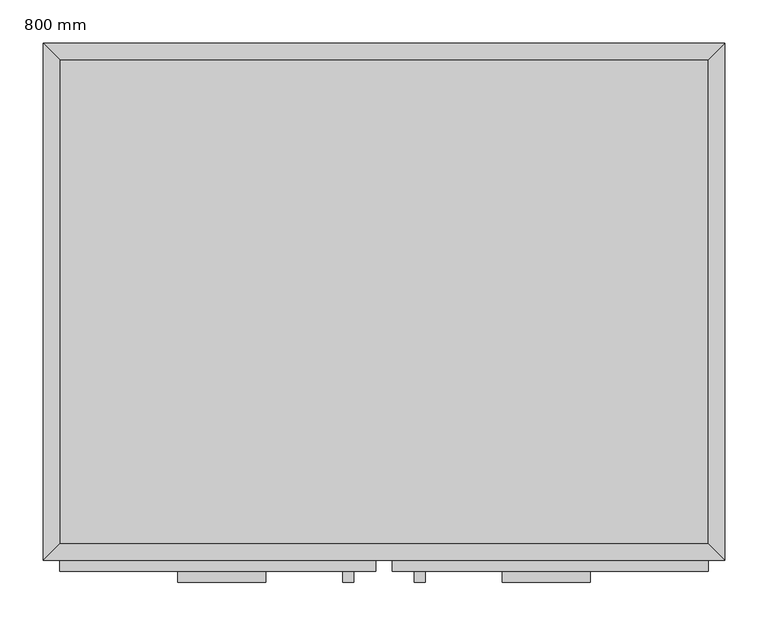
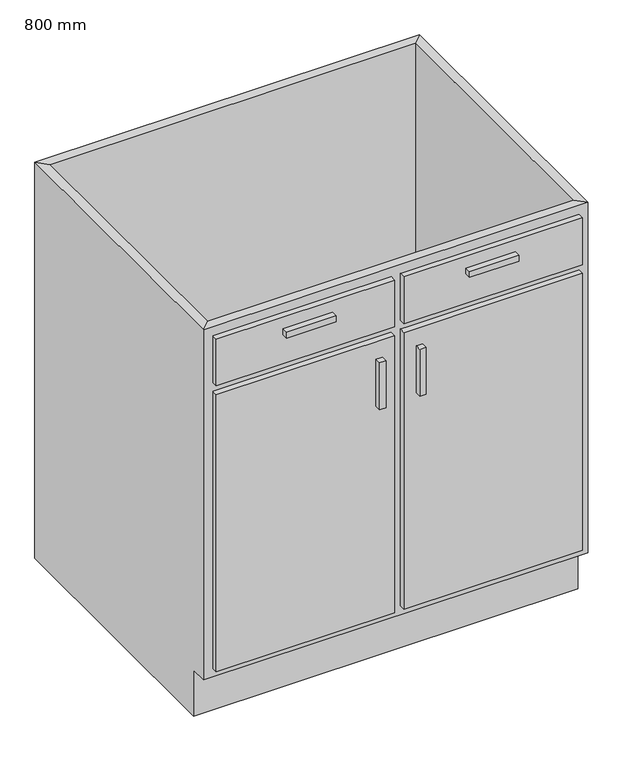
"""IFC4 building model written with IfcOpenShell, lengths in millimetres: furniture geometry, M_Base Cabinet-Double Door & 2 Drawer : 800 mm."""

import ifcopenshell
import ifcopenshell.guid

model = None  # the IFC model being written
_history = None  # IfcOwnerHistory: only IFC2X3 demands one
_inside = {}  # id of a spatial element -> (the spatial element, [elements in it])
_under = {}  # id of a project, library or spatial element -> (it, [spatial elements below it])
_declared = {}  # id of a project -> (the project, [libraries it declares])
_typed = {}  # id of a type object -> (the type object, [elements of that type])
_made_of = {}  # id of a material, layer set ... -> (it, [elements and type objects made of it])


def new_model(schema):
    """Start an empty IFC model of exactly this schema.

    Asked for "IFC4X3", IfcOpenShell would pick the latest addendum, in which some entities
    have other attributes; the version numbers below select the first issue.
    IFC2X3 requires an IfcOwnerHistory on every rooted entity: one is made here for all.
    """
    global model, _history
    if schema == "IFC4X3":
        model = ifcopenshell.file(schema_version=(4, 3, 0, 0))
    else:
        model = ifcopenshell.file(schema=schema)
    _inside.clear()
    _under.clear()
    _declared.clear()
    _typed.clear()
    _made_of.clear()
    _history = None
    if model.schema == "IFC2X3":
        org = make("IfcOrganization", Name="unknown")
        user = make(
            "IfcPersonAndOrganization",
            ThePerson=make("IfcPerson", FamilyName="unknown"),
            TheOrganization=org,
        )
        app = make(
            "IfcApplication",
            ApplicationDeveloper=org,
            Version="unknown",
            ApplicationFullName="unknown",
            ApplicationIdentifier="unknown",
        )
        _history = make(
            "IfcOwnerHistory",
            OwningUser=user,
            OwningApplication=app,
            ChangeAction="ADDED",
            CreationDate=0,
        )
    return model


def make(cls, **values):
    """One entity of the class cls with the attributes given. An attribute that is None is left unset."""
    return model.create_entity(
        cls, **{name: value for name, value in values.items() if value is not None}
    )


def rooted(cls, **values):
    """An entity with a GlobalId (a new one), such as an element, a storey or a relation."""
    return make(cls, GlobalId=ifcopenshell.guid.new(), OwnerHistory=_history, **values)


def si_unit(unit_type, name, prefix=None):
    """IfcSIUnit, for example si_unit("LENGTHUNIT", "METRE", prefix="MILLI")."""
    return make("IfcSIUnit", UnitType=unit_type, Prefix=prefix, Name=name)


def assignment(units):
    """IfcUnitAssignment: the units of a project."""
    return None if units is None else make("IfcUnitAssignment", Units=units)


def point(xyz):
    """IfcCartesianPoint."""
    return None if xyz is None else make("IfcCartesianPoint", Coordinates=xyz)


def direction(xyz):
    """IfcDirection."""
    return None if xyz is None else make("IfcDirection", DirectionRatios=xyz)


def frame(location, z_axis=None, x_axis=None):
    """IfcAxis2Placement3D, a coordinate frame: its origin and axes. An axis left out is left unset."""
    return make(
        "IfcAxis2Placement3D",
        Location=point(location),
        Axis=direction(z_axis),
        RefDirection=direction(x_axis),
    )


def origin():
    """The frame at (0, 0, 0) with its axes left unset."""
    return frame((0.0, 0.0, 0.0))


def place(relative_to, where):
    """IfcLocalPlacement: puts the frame where relative to a parent placement (None: the world)."""
    return make(
        "IfcLocalPlacement", PlacementRelTo=relative_to, RelativePlacement=where
    )


def context(
    kind, dimensions, precision=None, world=None, true_north=None, identifier=None
):
    """IfcGeometricRepresentationContext, for example the 3D "Model" context."""
    return make(
        "IfcGeometricRepresentationContext",
        ContextIdentifier=identifier,
        ContextType=kind,
        CoordinateSpaceDimension=dimensions,
        Precision=precision,
        WorldCoordinateSystem=world,
        TrueNorth=true_north,
    )


def project(units=None, contexts=None):
    """IfcProject with its units and contexts."""
    return rooted(
        "IfcProject",
        Name="project",
        RepresentationContexts=contexts,
        UnitsInContext=assignment(units),
    )


def spatial(cls, under=None, at=None, **own):
    """A site, building, storey or space (cls), placed at a placement, below another one or the project."""
    s = rooted(cls, ObjectPlacement=at, **own)
    if under is not None:
        _under.setdefault(under.id(), (under, []))[1].append(s)
    return s


def polyline(points):
    """IfcPolyline through the points."""
    return make("IfcPolyline", Points=[point(p) for p in points])


def outline(outer, holes=None, kind="AREA"):
    """IfcArbitraryClosedProfileDef: a profile drawn as a closed curve; with holes, ...WithVoids."""
    if holes is None:
        return make("IfcArbitraryClosedProfileDef", ProfileType=kind, OuterCurve=outer)
    return make(
        "IfcArbitraryProfileDefWithVoids",
        ProfileType=kind,
        OuterCurve=outer,
        InnerCurves=holes,
    )


def extrude(swept, where, along, depth):
    """IfcExtrudedAreaSolid: the profile swept, set in the frame where, extruded along a direction by depth."""
    return make(
        "IfcExtrudedAreaSolid",
        SweptArea=swept,
        Position=where,
        ExtrudedDirection=direction(along),
        Depth=depth,
    )


def faces_of(points, faces, orient=None, outer=None):
    """IfcFace entities. A face is a list of loops; a loop is a list of indices into points, from 0.

    orient and outer hold one flag for each loop. By default every Orientation is true, the
    first loop of a face is its IfcFaceOuterBound and the others are IfcFaceBound.
    """
    made = []
    for i, loops in enumerate(faces):
        bounds = []
        for j, loop in enumerate(loops):
            is_outer = j == 0 if outer is None else outer[i][j]
            bounds.append(
                make(
                    "IfcFaceOuterBound" if is_outer else "IfcFaceBound",
                    Bound=make("IfcPolyLoop", Polygon=[points[k] for k in loop]),
                    Orientation=True if orient is None else orient[i][j],
                )
            )
        made.append(make("IfcFace", Bounds=bounds))
    return made


def faceted_brep(points, faces, orient=None, outer=None, voids=None):
    """IfcFacetedBrep: a solid bounded by flat faces; with voids (closed shells), ...WithVoids."""
    shared = [point(p) for p in points]
    hull = make("IfcClosedShell", CfsFaces=faces_of(shared, faces, orient, outer))
    if voids is None:
        return make("IfcFacetedBrep", Outer=hull)
    return make(
        "IfcFacetedBrepWithVoids",
        Outer=hull,
        Voids=[
            make(cls, CfsFaces=faces_of(shared, fs, o, b)) for cls, fs, o, b in voids
        ],
    )


def shape(context_of_items, identifier, shape_type, items):
    """IfcShapeRepresentation: the items that make up one representation, for example the "Body"."""
    return make(
        "IfcShapeRepresentation",
        ContextOfItems=context_of_items,
        RepresentationIdentifier=identifier,
        RepresentationType=shape_type,
        Items=items,
    )


def source(mapping_origin, context_of_items, identifier, shape_type, items):
    """IfcRepresentationMap: a shape defined once, which mapped items show again and again."""
    return make(
        "IfcRepresentationMap",
        MappingOrigin=mapping_origin,
        MappedRepresentation=shape(context_of_items, identifier, shape_type, items),
    )


def transform(
    local_origin,
    x_axis=None,
    y_axis=None,
    z_axis=None,
    scale=None,
    scale2=None,
    scale3=None,
    uniform=True,
):
    """IfcCartesianTransformationOperator3D, or its non-uniform kind. x_axis, y_axis, z_axis: its Axis1, 2, 3."""
    if uniform:
        return make(
            "IfcCartesianTransformationOperator3D",
            Axis1=direction(x_axis),
            Axis2=direction(y_axis),
            LocalOrigin=point(local_origin),
            Scale=scale,
            Axis3=direction(z_axis),
        )
    return make(
        "IfcCartesianTransformationOperator3DnonUniform",
        Axis1=direction(x_axis),
        Axis2=direction(y_axis),
        LocalOrigin=point(local_origin),
        Scale=scale,
        Axis3=direction(z_axis),
        Scale2=scale2,
        Scale3=scale3,
    )


def mapped(mapping_source, mapping_target):
    """IfcMappedItem: shows the shape of a source again, moved by a transform."""
    return make(
        "IfcMappedItem", MappingSource=mapping_source, MappingTarget=mapping_target
    )


def made_of(thing, what):
    """Note that an element or type object is made of a material, layer set ...; save() writes the relation."""
    if what is not None:
        _made_of.setdefault(what.id(), (what, []))[1].append(thing)
    return thing


def element(
    cls,
    number,
    at=None,
    inside=None,
    cuts=None,
    type_object=None,
    material=None,
    context=None,
    identifier="Body",
    shape_type=None,
    held_by="IfcProductDefinitionShape",
    body=None,
    shapes=None,
    **own,
):
    """One element of the class cls, such as IfcWall. Its Tag is "e" and its number.

    at: its placement. inside: the storey or other place that contains it. cuts: it is an
    opening in that element (IfcRelVoidsElement). A single representation is given by context,
    identifier, shape_type and body (its items); several are given by shapes. held_by: the class
    of the entity that holds the representations. save() writes the other relations.
    """
    e = rooted(cls, Tag="e%d" % number, ObjectPlacement=at, **own)
    if body is not None:
        shapes = [shape(context, identifier, shape_type, body)]
    if shapes is not None:
        e.Representation = make(held_by, Representations=shapes)
    if inside is not None:
        _inside.setdefault(inside.id(), (inside, []))[1].append(e)
    if cuts is not None:
        rooted(
            "IfcRelVoidsElement", RelatingBuildingElement=cuts, RelatedOpeningElement=e
        )
    if type_object is not None:
        _typed.setdefault(type_object.id(), (type_object, []))[1].append(e)
    return made_of(e, material)


def aggregate(whole, parts):
    """IfcRelAggregates: a whole, such as a stair, and the parts it consists of."""
    return rooted("IfcRelAggregates", RelatingObject=whole, RelatedObjects=parts)


def save(model, path):
    """Write the relations noted so far, then the file.

    IfcRelAggregates (storeys below a building ...), IfcRelContainedInSpatialStructure (elements
    in a storey), IfcRelDefinesByType, IfcRelAssociatesMaterial and IfcRelDeclares: one each for
    every whole, place, type object, material and project.
    """
    for whole, parts in _under.values():
        aggregate(whole, parts)
    for where, things in _inside.values():
        rooted(
            "IfcRelContainedInSpatialStructure",
            RelatedElements=things,
            RelatingStructure=where,
        )
    for kind, things in _typed.values():
        rooted("IfcRelDefinesByType", RelatedObjects=things, RelatingType=kind)
    for what, things in _made_of.values():
        rooted("IfcRelAssociatesMaterial", RelatedObjects=things, RelatingMaterial=what)
    for by, libraries in _declared.values():
        rooted("IfcRelDeclares", RelatingContext=by, RelatedDefinitions=libraries)
    model.write(path)


def furniture_800_mm_1ff4edde(model_context):
    return source(origin(), model_context, "Body", "SolidModel", [
        faceted_brep([(394.6877049, -580.95, 860.0), (394.6877049, -580.95, 100.0), (-357.2122951, -580.95, 100.0), (-357.2122951, -580.95, 860.0), (-376.2622951, -600.0, 860.0), (413.7377049, -600.0, 860.0), (-376.2622951, -600.0, 100.0), (413.7377049, -600.0, 100.0), (-357.2122951, -565.0, 100.0), (-357.2122951, -19.05, 100.0), (-357.2122951, -19.05, 860.0), (-376.2622951, 0.0, 860.0), (-376.2622951, 0.0, 0.0), (-376.2622951, -565.0, 0.0), (-376.2622951, -565.0, 100.0), (394.6877049, -19.05, 100.0), (394.6877049, -19.05, 860.0), (413.7377049, 0.0, 860.0), (413.7377049, 0.0, 0.0), (394.6877049, -565.0, 100.0), (413.7377049, -565.0, 100.0), (413.7377049, -565.0, 0.0)], [[[0, 1, 2, 3]], [[0, 3, 4, 5]], [[5, 4, 6, 7]], [[2, 1, 7, 6]], [[3, 2, 8, 9, 10]], [[4, 3, 10, 11]], [[6, 4, 11, 12, 13, 14]], [[2, 6, 14, 8]], [[10, 9, 15, 16]], [[11, 10, 16, 17]], [[12, 11, 17, 18]], [[1, 0, 16, 15, 19]], [[0, 5, 17, 16]], [[5, 7, 20, 21, 18, 17]], [[7, 1, 19, 20]], [[8, 19, 15, 9]], [[18, 21, 13, 12]], [[13, 21, 20, 19, 8, 14]]]),
        extrude(outline(polyline([(-118.4372951, -625.4), (-220.0372951, -625.4), (-220.0372951, -612.7), (-118.4372951, -612.7), (-118.4372951, -625.4)])), frame((0.0, 0.0, 802.85), z_axis=(0.0, 0.0, 1.0), x_axis=(1.0, 0.0, 0.0)), (0.0, 0.0, 1.0), 12.7),
        extrude(outline(polyline([(257.5127049, -625.4), (155.9127049, -625.4), (155.9127049, -612.7), (257.5127049, -612.7), (257.5127049, -625.4)])), frame((0.0, 0.0, 802.85), z_axis=(0.0, 0.0, 1.0), x_axis=(1.0, 0.0, 0.0)), (0.0, 0.0, 1.0), 12.7),
        extrude(outline(polyline([(-16.1872951, -625.4), (-28.8872951, -625.4), (-28.8872951, -612.7), (-16.1872951, -612.7), (-16.1872951, -625.4)])), frame((0.0, 0.0, 580.6), z_axis=(0.0, 0.0, 1.0), x_axis=(1.0, 0.0, 0.0)), (0.0, 0.0, 1.0), 101.6),
        extrude(outline(polyline([(66.3627049, -625.4), (53.6627049, -625.4), (53.6627049, -612.7), (66.3627049, -612.7), (66.3627049, -625.4)])), frame((0.0, 0.0, 580.6), z_axis=(0.0, 0.0, 1.0), x_axis=(1.0, 0.0, 0.0)), (0.0, 0.0, 1.0), 101.6),
        extrude(outline(polyline([(9.2127049, -612.7), (-357.2122951, -612.7), (-357.2122951, -600.0), (9.2127049, -600.0), (9.2127049, -612.7)])), frame((0.0, 0.0, 739.35), z_axis=(0.0, 0.0, 1.0), x_axis=(1.0, 0.0, 0.0)), (0.0, 0.0, 1.0), 101.6),
        extrude(outline(polyline([(394.6877049, -612.7), (28.2627049, -612.7), (28.2627049, -600.0), (394.6877049, -600.0), (394.6877049, -612.7)])), frame((0.0, 0.0, 739.35), z_axis=(0.0, 0.0, 1.0), x_axis=(1.0, 0.0, 0.0)), (0.0, 0.0, 1.0), 101.6),
        extrude(outline(polyline([(9.2127049, -612.7), (-357.2122951, -612.7), (-357.2122951, -600.0), (9.2127049, -600.0), (9.2127049, -612.7)])), frame((0.0, 0.0, 119.05), z_axis=(0.0, 0.0, 1.0), x_axis=(1.0, 0.0, 0.0)), (0.0, 0.0, 1.0), 601.25),
        extrude(outline(polyline([(394.6877049, -612.7), (28.2627049, -612.7), (28.2627049, -600.0), (394.6877049, -600.0), (394.6877049, -612.7)])), frame((0.0, 0.0, 119.05), z_axis=(0.0, 0.0, 1.0), x_axis=(1.0, 0.0, 0.0)), (0.0, 0.0, 1.0), 601.25),
        extrude(outline(polyline([(394.6877049, -19.05), (394.6877049, -580.95), (-357.2122951, -580.95), (-357.2122951, -19.05), (394.6877049, -19.05)])), frame((0.0, 0.0, 100.0), z_axis=(0.0, 0.0, 1.0), x_axis=(1.0, 0.0, 0.0)), (0.0, 0.0, 1.0), 19.05),
    ])


if __name__ == "__main__":
    model = new_model("IFC4")
    model_context = context("Model", 3, world=origin())
    ifc_project = project(units=[si_unit("LENGTHUNIT", "METRE", prefix="MILLI")], contexts=[model_context])
    site = spatial("IfcSite", under=ifc_project)
    building = spatial("IfcBuilding", under=site)
    placement = place(None, origin())
    furniture_800_mm_shape = furniture_800_mm_1ff4edde(model_context)
    element("IfcFurniture", 1, ObjectType="M_Base Cabinet-Double Door & 2 Drawer : 800 mm", at=placement, inside=building, context=model_context, shape_type="MappedRepresentation", body=[
        mapped(furniture_800_mm_shape, transform((0.0, 0.0, 0.0), x_axis=(1.0, 0.0, 0.0), y_axis=(0.0, 1.0, 0.0), z_axis=(0.0, 0.0, 1.0))),
    ])
    save(model, "model.ifc")
